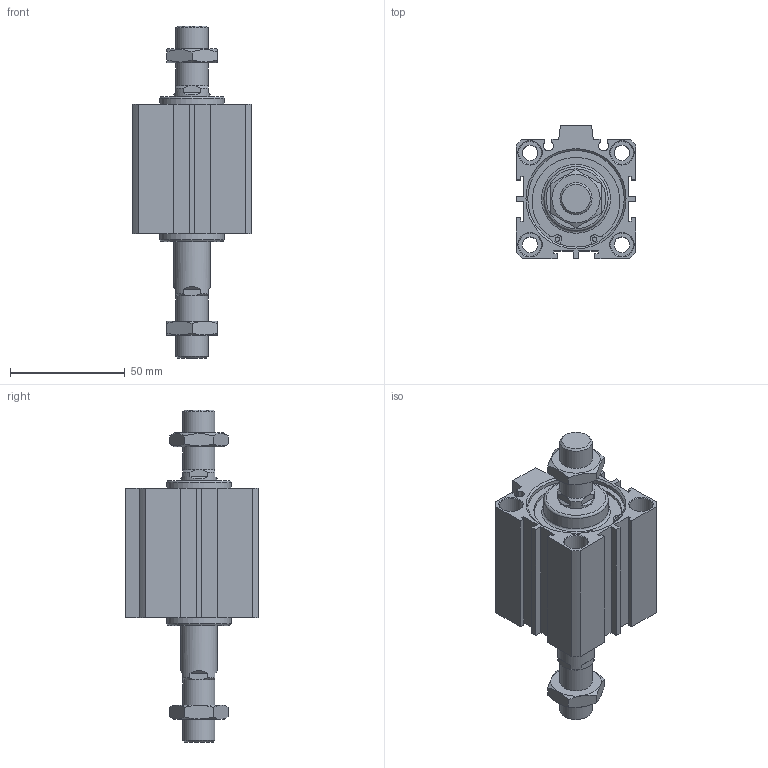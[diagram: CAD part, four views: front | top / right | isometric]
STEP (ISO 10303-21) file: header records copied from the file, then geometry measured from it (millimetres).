
FILE_DESCRIPTION((''),'2;1');
FILE_NAME('I:\3D電子目錄\氣缸\JDD\JDD-BS\JDD40-BS\JDD40x20-BS.stp','2007-02-27T14:36:28',('662F206'),(''),'Autodesk Inventor 10','Autodesk Inventor 10','');
FILE_SCHEMA(('AUTOMOTIVE_DESIGN { 1 0 10303 214 1 1 1 1 }'));
Length unit declared in the file: millimetre
Products named in the file (3): JDD40-BS; R 形環 42
Assembly tree (3 placements, depth 2):
  JDD40-BS
    JDD40-BS
    R 形環 42  x2
Bounding box: 52 x 58 x 144.5 mm (x, y, z)
Volume: 149174.8 mm3; surface area: 37515 mm2
Topology: 3 solids, 3 shells, 206 faces, 486 edges, 312 vertices
Faces by surface type: plane 114, cylinder 50, cone 38, bspline 2, torus 2
Full cylindrical faces by diameter (mm): 1.9 x4, 2.2 x2, 6.8 x4, 10 x8, 14 x4, 16 x2, 28 x2, 42 x4, 44.5 x2
Entity records: 5343 total; most frequent: CARTESIAN_POINT 1072, DIRECTION 880, ORIENTED_EDGE 792, EDGE_CURVE 396, AXIS2_PLACEMENT_3D 338, VERTEX_POINT 284, EDGE_LOOP 284, VECTOR 204
